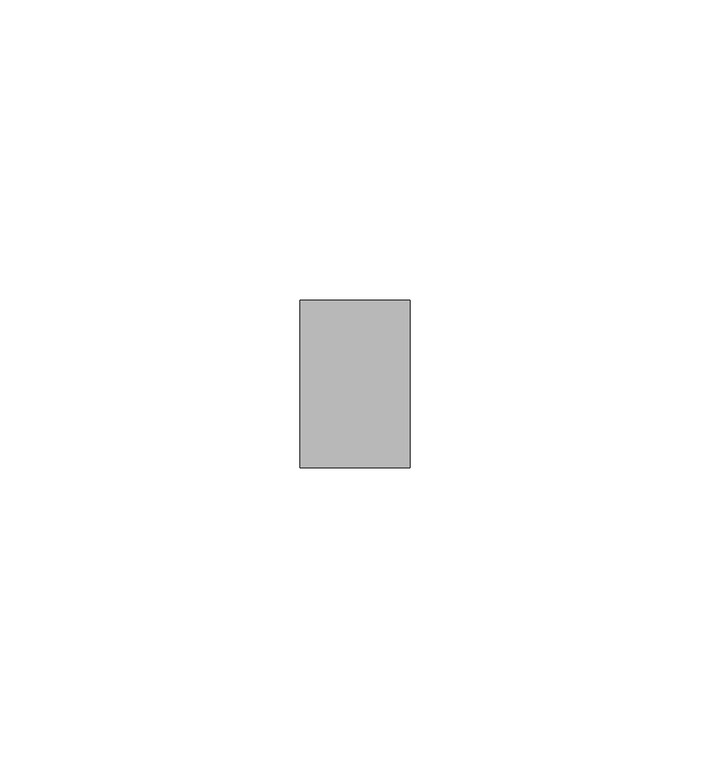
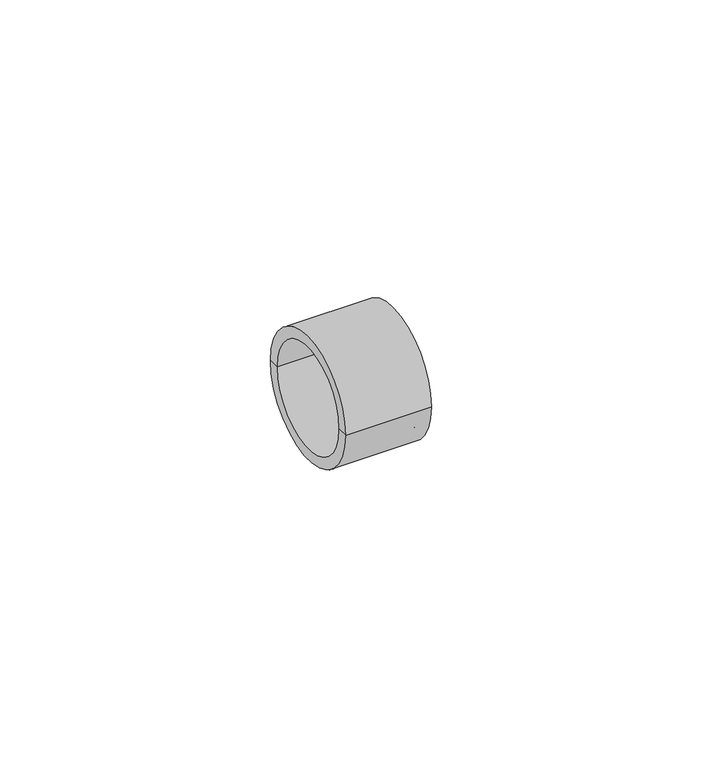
"""IFC4 building model written with IfcOpenShell, lengths in millimetres: cable carrier fitting geometry."""

from ifc_helpers import new_model, si_unit, frame, origin, place, context, project, spatial, polyline, circle_curve, source, transform, mapped, element, save
from ifc_brep_helpers import plane_surface, cylinder_surface, revolved_surface, advanced_brep


def cable_carrier_fitting_70b79c4b(model_context):
    return source(origin(), model_context, "Body", "AdvancedBrep", [
        advanced_brep(
        [(-17.01, -13.92, 0.0), (-17.01, 13.92, 0.0), (1.25, 13.92, 0.0), (1.25, -13.92, 0.0), (-17.01, -11.51, 0.0), (-17.01, 11.51, 0.0), (1.25, 11.51, 0.0), (1.25, -11.51, 0.0)],
        [
            (0, 1, circle_curve(frame((-17.01, 0.0, 0.0), z_axis=(1.0, 0.0, 0.0), x_axis=(0.0, 1.0, 0.0)), 13.92)),
            (1, 2),
            (2, 3, circle_curve(frame((1.25, 0.0, 0.0), z_axis=(-1.0, 0.0, 0.0), x_axis=(0.0, 1.0, 0.0)), 13.92)),
            (3, 0),
            (1, 0, circle_curve(frame((-17.01, 0.0, 0.0), z_axis=(1.0, 0.0, 0.0), x_axis=(0.0, 1.0, 0.0)), 13.92)),
            (3, 2, circle_curve(frame((1.25, 0.0, 0.0), z_axis=(-1.0, 0.0, 0.0), x_axis=(0.0, 1.0, 0.0)), 13.92)),
            (4, 5, circle_curve(frame((-17.01, 0.0, 0.0), z_axis=(1.0, 0.0, 0.0), x_axis=(0.0, 1.0, 0.0)), 11.51)),
            (5, 1),
            (0, 4),
            (5, 4, circle_curve(frame((-17.01, 0.0, 0.0), z_axis=(1.0, 0.0, 0.0), x_axis=(0.0, 1.0, 0.0)), 11.51)),
            (2, 6),
            (6, 7, circle_curve(frame((1.25, 0.0, 0.0), z_axis=(-1.0, 0.0, 0.0), x_axis=(0.0, 1.0, 0.0)), 11.51)),
            (7, 3),
            (7, 6, circle_curve(frame((1.25, 0.0, 0.0), z_axis=(-1.0, 0.0, 0.0), x_axis=(0.0, 1.0, 0.0)), 11.51)),
            (6, 5),
            (4, 7),
        ],
        [
            cylinder_surface(frame((1983.77, 0.0, 0.0), z_axis=(-1.0, 0.0, 0.0), x_axis=(0.0, 1.0, 0.0)), 13.92),
            plane_surface(frame((-17.01, 0.0, 0.0), z_axis=(-1.0, 0.0, 0.0), x_axis=(0.0, 1.0, 0.0))),
            plane_surface(frame((1.25, 0.0, 0.0), z_axis=(1.0, 0.0, 0.0), x_axis=(0.0, 1.0, 0.0))),
            revolved_surface(polyline([(-17.00999999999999, 11.51, 0.0), (1.25, 11.51, 0.0)]), (1983.77, 0.0, 0.0), (-1.0, 0.0, 0.0)),
        ],
        [
            (0, [[1, 2, 3, 4]]),
            (0, [[5, -4, 6, -2]]),
            (1, [[7, 8, -1, 9]]),
            (1, [[10, -9, -5, -8]]),
            (2, [[-3, 11, 12, 13]]),
            (2, [[-6, -13, 14, -11]]),
            (3, [[-12, 15, -7, 16]]),
            (3, [[-14, -16, -10, -15]]),
        ],
    ),
        advanced_brep(
        [(-1.25, -11.51, 0.0), (-1.25, 11.51, 0.0), (1.25, 11.51, 0.0), (1.25, -11.51, 0.0), (-1.25, 0.0, 0.0), (1.25, 0.0, 0.0)],
        [
            (0, 1, circle_curve(frame((-1.25, 0.0, 0.0), z_axis=(1.0, 0.0, 0.0), x_axis=(0.0, 1.0, 0.0)), 11.51)),
            (1, 2),
            (2, 3, circle_curve(frame((1.25, 0.0, 0.0), z_axis=(-1.0, 0.0, 0.0), x_axis=(0.0, 1.0, 0.0)), 11.51)),
            (3, 0),
            (1, 0, circle_curve(frame((-1.25, 0.0, 0.0), z_axis=(1.0, 0.0, 0.0), x_axis=(0.0, 1.0, 0.0)), 11.51)),
            (3, 2, circle_curve(frame((1.25, 0.0, 0.0), z_axis=(-1.0, 0.0, 0.0), x_axis=(0.0, 1.0, 0.0)), 11.51)),
            (4, 1),
            (0, 4),
            (2, 5),
            (5, 3),
        ],
        [
            cylinder_surface(frame((1998.2590145, 0.0, 0.0), z_axis=(-1.0, 0.0, 0.0), x_axis=(0.0, 1.0, 0.0)), 11.51),
            plane_surface(frame((-1.25, 0.0, 0.0), z_axis=(-1.0, 0.0, 0.0), x_axis=(0.0, 1.0, 0.0))),
            plane_surface(frame((1.25, 0.0, 0.0), z_axis=(1.0, 0.0, 0.0), x_axis=(0.0, 1.0, 0.0))),
        ],
        [
            (0, [[1, 2, 3, 4]]),
            (0, [[5, -4, 6, -2]]),
            (1, [[7, -1, 8]]),
            (1, [[-8, -5, -7]]),
            (2, [[-3, 9, 10]]),
            (2, [[-6, -10, -9]]),
        ],
    ),
    ])


if __name__ == "__main__":
    model = new_model("IFC4")
    model_context = context("Model", 3, world=origin())
    ifc_project = project(units=[si_unit("LENGTHUNIT", "METRE", prefix="MILLI")], contexts=[model_context])
    site = spatial("IfcSite", under=ifc_project)
    building = spatial("IfcBuilding", under=site)
    placement = place(None, origin())
    cable_carrier_fitting_shape = cable_carrier_fitting_70b79c4b(model_context)
    element("IfcCableCarrierFitting", 1, ObjectType="AmancoWavin_ConduitFittings_ConectorMacho_U : Gris de ½ y ¾\"", at=placement, inside=building, context=model_context, shape_type="MappedRepresentation", body=[
        mapped(cable_carrier_fitting_shape, transform((0.0, 0.0, 0.0), x_axis=(1.0, 0.0, 0.0), y_axis=(0.0, 1.0, 0.0), z_axis=(0.0, 0.0, 1.0))),
    ])
    save(model, "model.ifc")
